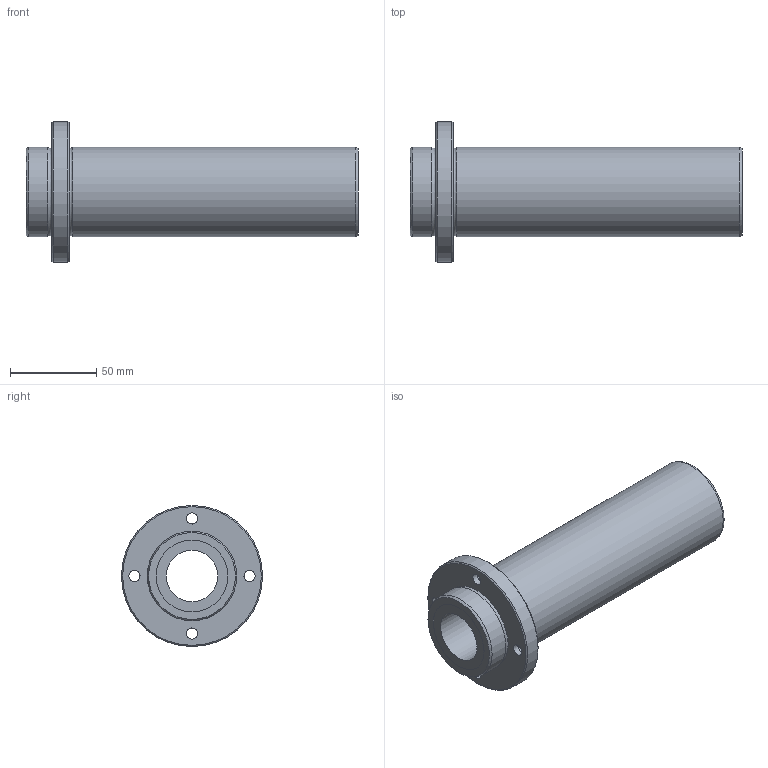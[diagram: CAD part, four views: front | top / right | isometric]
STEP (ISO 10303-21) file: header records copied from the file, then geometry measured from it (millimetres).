
FILE_DESCRIPTION((''),'2;1');
FILE_NAME('D:\製品 (図面)\カタログ用3D\メンテナンスフリー関連\STEP形式\LFLB-MF\LFLB30MF.stp','2010-06-01T15:54:19',('Tsuchiya'),(''),'Autodesk Inventor 10','Autodesk Inventor 10','');
FILE_SCHEMA(('AUTOMOTIVE_DESIGN { 1 0 10303 214 1 1 1 1 }'));
Length unit declared in the file: millimetre
Products named in the file (1): LFLB30MF
Bounding box: 193 x 82 x 82 mm (x, y, z)
Volume: 301393.7 mm3; surface area: 60465.4 mm2
Topology: 1 solids, 1 shells, 30 faces, 54 edges, 34 vertices
Faces by surface type: bspline 14, cylinder 6, plane 6, cone 2, torus 2
Full cylindrical faces by diameter (mm): 30 x1, 41.7 x2, 52 x2, 82 x1
Entity records: 907 total; most frequent: CARTESIAN_POINT 371, DIRECTION 102, ORIENTED_EDGE 68, EDGE_LOOP 68, AXIS2_PLACEMENT_3D 51, FACE_BOUND 38, VERTEX_POINT 34, CIRCLE 34
